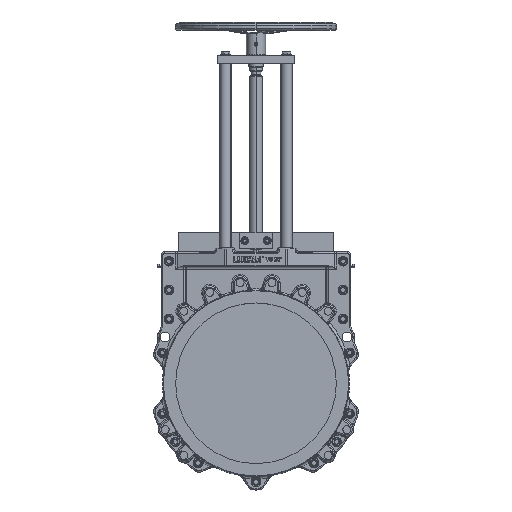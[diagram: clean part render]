
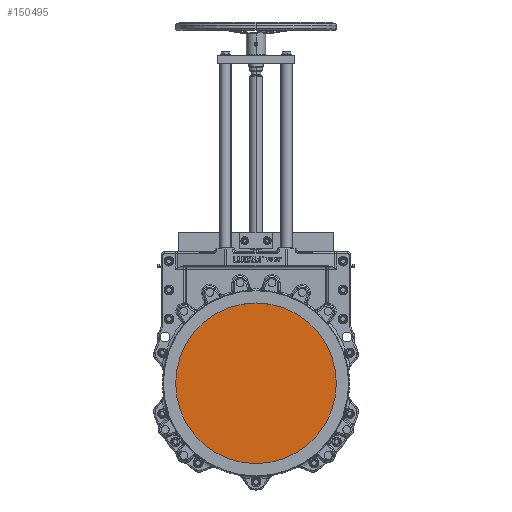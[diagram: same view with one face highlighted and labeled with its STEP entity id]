
A CAD part, top view. The second image highlights one B-rep face of the part: STEP entity #150495.
In plain terms, the highlighted planar face has unit normal (0, 0, 1).
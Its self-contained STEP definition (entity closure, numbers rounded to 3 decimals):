
#6410 = CARTESIAN_POINT ( 'NONE',  ( 250., 0., -0.25 ) ) ;
#17622 = EDGE_CURVE ( 'NONE', #38804, #74413, #29008, .T. ) ;
#24504 = CARTESIAN_POINT ( 'NONE',  ( 0., 0., -0.25 ) ) ;
#29008 = CIRCLE ( 'NONE', #42111, 250. ) ;
#37850 = DIRECTION ( 'NONE',  ( -1., 0., 0. ) ) ;
#38804 = VERTEX_POINT ( 'NONE', #6410 ) ;
#42111 = AXIS2_PLACEMENT_3D ( 'NONE', #127843, #48598, #141184 ) ;
#45940 = CIRCLE ( 'NONE', #46164, 250. ) ;
#46164 = AXIS2_PLACEMENT_3D ( 'NONE', #24504, #117093, #37850 ) ;
#48352 = CARTESIAN_POINT ( 'NONE',  ( 0., 108., -0.25 ) ) ;
#48598 = DIRECTION ( 'NONE',  ( 0., 0., -1. ) ) ;
#61408 = ORIENTED_EDGE ( 'NONE', *, *, #128023, .F. ) ;
#61655 = DIRECTION ( 'NONE',  ( -1., 0., 0. ) ) ;
#67548 = CARTESIAN_POINT ( 'NONE',  ( -250., 0., -0.25 ) ) ;
#70897 = EDGE_LOOP ( 'NONE', ( #144505, #61408 ) ) ;
#74307 = PLANE ( 'NONE',  #137066 ) ;
#74413 = VERTEX_POINT ( 'NONE', #67548 ) ;
#117093 = DIRECTION ( 'NONE',  ( 0., 0., -1. ) ) ;
#127843 = CARTESIAN_POINT ( 'NONE',  ( 0., 0., -0.25 ) ) ;
#128023 = EDGE_CURVE ( 'NONE', #74413, #38804, #45940, .T. ) ;
#137066 = AXIS2_PLACEMENT_3D ( 'NONE', #48352, #140932, #61655 ) ;
#140932 = DIRECTION ( 'NONE',  ( 0., 0., -1. ) ) ;
#141184 = DIRECTION ( 'NONE',  ( -1., 0., 0. ) ) ;
#144505 = ORIENTED_EDGE ( 'NONE', *, *, #17622, .F. ) ;
#150495 = ADVANCED_FACE ( 'NONE', ( #168696 ), #74307, .F. ) ;
#168696 = FACE_OUTER_BOUND ( 'NONE', #70897, .T. ) ;
